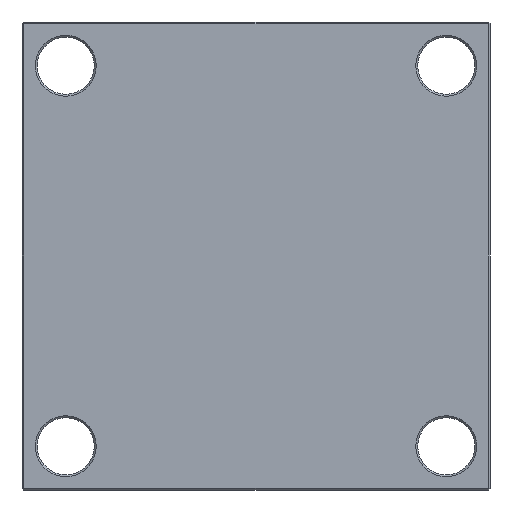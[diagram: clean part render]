
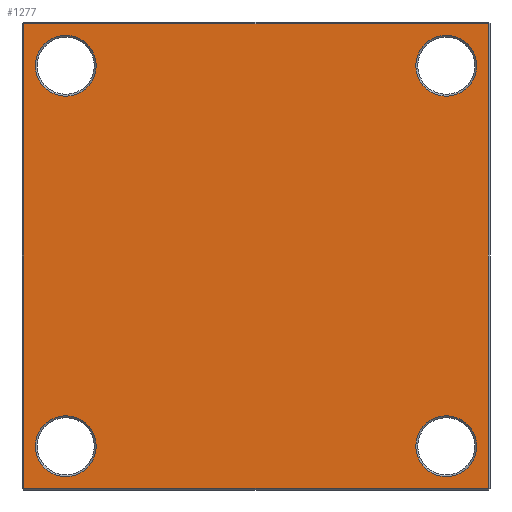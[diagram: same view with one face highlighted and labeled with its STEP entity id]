
A CAD part, front view. The second image highlights one B-rep face of the part: STEP entity #1277.
In plain terms, the highlighted planar face has unit normal (0, -1, 0).
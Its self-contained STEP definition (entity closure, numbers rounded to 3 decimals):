
#9 = EDGE_CURVE ( 'NONE', #828, #495, #794, .T. ) ;
#30 = DIRECTION ( 'NONE',  ( 0., 0., 1. ) ) ;
#80 = CARTESIAN_POINT ( 'NONE',  ( -100., 0., -100. ) ) ;
#107 = ORIENTED_EDGE ( 'NONE', *, *, #1041, .T. ) ;
#113 = ORIENTED_EDGE ( 'NONE', *, *, #1734, .T. ) ;
#147 = ORIENTED_EDGE ( 'NONE', *, *, #9, .T. ) ;
#171 = DIRECTION ( 'NONE',  ( 0., 1., 0. ) ) ;
#180 = DIRECTION ( 'NONE',  ( 0., 0., 1. ) ) ;
#187 = DIRECTION ( 'NONE',  ( 1., 0., 0. ) ) ;
#201 = CARTESIAN_POINT ( 'NONE',  ( 100., 0., -100. ) ) ;
#224 = VERTEX_POINT ( 'NONE', #2092 ) ;
#227 = VERTEX_POINT ( 'NONE', #830 ) ;
#238 = DIRECTION ( 'NONE',  ( -1., 0., 0. ) ) ;
#244 = CIRCLE ( 'NONE', #1267, 16. ) ;
#255 = CARTESIAN_POINT ( 'NONE',  ( 0., 0., 122. ) ) ;
#267 = DIRECTION ( 'NONE',  ( 0., 1., 0. ) ) ;
#276 = ORIENTED_EDGE ( 'NONE', *, *, #2053, .T. ) ;
#278 = CARTESIAN_POINT ( 'NONE',  ( -100., 0., -100. ) ) ;
#291 = DIRECTION ( 'NONE',  ( 0., 1., 0. ) ) ;
#317 = DIRECTION ( 'NONE',  ( 0., 0., 1. ) ) ;
#318 = CARTESIAN_POINT ( 'NONE',  ( 100., 0., 100. ) ) ;
#343 = CARTESIAN_POINT ( 'NONE',  ( 122., 0., 0. ) ) ;
#356 = DIRECTION ( 'NONE',  ( 0., 0., 1. ) ) ;
#402 = CARTESIAN_POINT ( 'NONE',  ( -122., 0., 0. ) ) ;
#412 = VERTEX_POINT ( 'NONE', #1580 ) ;
#413 = DIRECTION ( 'NONE',  ( 0., 0., 1. ) ) ;
#427 = ORIENTED_EDGE ( 'NONE', *, *, #1944, .T. ) ;
#431 = VERTEX_POINT ( 'NONE', #1622 ) ;
#449 = AXIS2_PLACEMENT_3D ( 'NONE', #1143, #1152, #1158 ) ;
#452 = AXIS2_PLACEMENT_3D ( 'NONE', #278, #291, #317 ) ;
#478 = CIRCLE ( 'NONE', #1480, 16. ) ;
#482 = AXIS2_PLACEMENT_3D ( 'NONE', #1062, #1067, #1131 ) ;
#495 = VERTEX_POINT ( 'NONE', #849 ) ;
#537 = VECTOR ( 'NONE', #238, 1000. ) ;
#543 = ORIENTED_EDGE ( 'NONE', *, *, #803, .T. ) ;
#572 = CARTESIAN_POINT ( 'NONE',  ( 0., 0., -122. ) ) ;
#581 = DIRECTION ( 'NONE',  ( 0., 0., -1. ) ) ;
#587 = ORIENTED_EDGE ( 'NONE', *, *, #902, .T. ) ;
#596 = AXIS2_PLACEMENT_3D ( 'NONE', #201, #171, #180 ) ;
#614 = ORIENTED_EDGE ( 'NONE', *, *, #972, .T. ) ;
#638 = LINE ( 'NONE', #572, #1521 ) ;
#639 = ORIENTED_EDGE ( 'NONE', *, *, #1304, .T. ) ;
#729 = CIRCLE ( 'NONE', #452, 16. ) ;
#763 = CARTESIAN_POINT ( 'NONE',  ( 100., 0., 84. ) ) ;
#794 = CIRCLE ( 'NONE', #1514, 16. ) ;
#803 = EDGE_CURVE ( 'NONE', #227, #431, #638, .T. ) ;
#828 = VERTEX_POINT ( 'NONE', #1078 ) ;
#830 = CARTESIAN_POINT ( 'NONE',  ( -122., 0., -122. ) ) ;
#849 = CARTESIAN_POINT ( 'NONE',  ( -100., 0., -116. ) ) ;
#863 = FACE_BOUND ( 'NONE', #1607, .T. ) ;
#873 = EDGE_CURVE ( 'NONE', #1939, #1706, #1929, .T. ) ;
#882 = DIRECTION ( 'NONE',  ( 0., 0., 1. ) ) ;
#889 = DIRECTION ( 'NONE',  ( 0., 1., 0. ) ) ;
#890 = VECTOR ( 'NONE', #882, 1000. ) ;
#902 = EDGE_CURVE ( 'NONE', #1101, #224, #1970, .T. ) ;
#903 = CARTESIAN_POINT ( 'NONE',  ( 100., 0., -100. ) ) ;
#916 = ORIENTED_EDGE ( 'NONE', *, *, #1098, .T. ) ;
#936 = DIRECTION ( 'NONE',  ( 0., 1., 0. ) ) ;
#937 = VECTOR ( 'NONE', #581, 1000. ) ;
#966 = CARTESIAN_POINT ( 'NONE',  ( 0., 0., 0. ) ) ;
#972 = EDGE_CURVE ( 'NONE', #224, #227, #1127, .T. ) ;
#979 = DIRECTION ( 'NONE',  ( 0., 0., 1. ) ) ;
#1041 = EDGE_CURVE ( 'NONE', #1671, #1466, #478, .T. ) ;
#1059 = EDGE_LOOP ( 'NONE', ( #1901, #147 ) ) ;
#1062 = CARTESIAN_POINT ( 'NONE',  ( -100., 0., 100. ) ) ;
#1065 = CARTESIAN_POINT ( 'NONE',  ( 122., 0., 122. ) ) ;
#1067 = DIRECTION ( 'NONE',  ( 0., 1., 0. ) ) ;
#1078 = CARTESIAN_POINT ( 'NONE',  ( -100., 0., -84. ) ) ;
#1098 = EDGE_CURVE ( 'NONE', #431, #1101, #1821, .T. ) ;
#1101 = VERTEX_POINT ( 'NONE', #1065 ) ;
#1127 = LINE ( 'NONE', #402, #937 ) ;
#1131 = DIRECTION ( 'NONE',  ( 0., 0., 1. ) ) ;
#1143 = CARTESIAN_POINT ( 'NONE',  ( 100., 0., 100. ) ) ;
#1152 = DIRECTION ( 'NONE',  ( 0., 1., 0. ) ) ;
#1158 = DIRECTION ( 'NONE',  ( 0., 0., 1. ) ) ;
#1257 = CARTESIAN_POINT ( 'NONE',  ( 100., 0., -84. ) ) ;
#1264 = CARTESIAN_POINT ( 'NONE',  ( 100., 0., -116. ) ) ;
#1267 = AXIS2_PLACEMENT_3D ( 'NONE', #1750, #1728, #1721 ) ;
#1277 = ADVANCED_FACE ( 'NONE', ( #1790, #1373, #863, #2170, #1747 ), #2025, .F. ) ;
#1290 = AXIS2_PLACEMENT_3D ( 'NONE', #966, #2010, #30 ) ;
#1304 = EDGE_CURVE ( 'NONE', #412, #2107, #244, .T. ) ;
#1373 = FACE_BOUND ( 'NONE', #1823, .T. ) ;
#1460 = ORIENTED_EDGE ( 'NONE', *, *, #873, .T. ) ;
#1466 = VERTEX_POINT ( 'NONE', #1264 ) ;
#1480 = AXIS2_PLACEMENT_3D ( 'NONE', #903, #889, #979 ) ;
#1485 = AXIS2_PLACEMENT_3D ( 'NONE', #318, #267, #356 ) ;
#1514 = AXIS2_PLACEMENT_3D ( 'NONE', #80, #936, #413 ) ;
#1521 = VECTOR ( 'NONE', #187, 1000. ) ;
#1580 = CARTESIAN_POINT ( 'NONE',  ( -100., 0., 116. ) ) ;
#1607 = EDGE_LOOP ( 'NONE', ( #276, #1460 ) ) ;
#1622 = CARTESIAN_POINT ( 'NONE',  ( 122., 0., -122. ) ) ;
#1671 = VERTEX_POINT ( 'NONE', #1257 ) ;
#1706 = VERTEX_POINT ( 'NONE', #763 ) ;
#1721 = DIRECTION ( 'NONE',  ( 0., 0., 1. ) ) ;
#1728 = DIRECTION ( 'NONE',  ( 0., 1., 0. ) ) ;
#1734 = EDGE_CURVE ( 'NONE', #1466, #1671, #1984, .T. ) ;
#1747 = FACE_OUTER_BOUND ( 'NONE', #1792, .T. ) ;
#1750 = CARTESIAN_POINT ( 'NONE',  ( -100., 0., 100. ) ) ;
#1790 = FACE_BOUND ( 'NONE', #1059, .T. ) ;
#1792 = EDGE_LOOP ( 'NONE', ( #916, #587, #614, #543 ) ) ;
#1821 = LINE ( 'NONE', #343, #890 ) ;
#1823 = EDGE_LOOP ( 'NONE', ( #113, #107 ) ) ;
#1878 = CARTESIAN_POINT ( 'NONE',  ( -100., 0., 84. ) ) ;
#1901 = ORIENTED_EDGE ( 'NONE', *, *, #2020, .T. ) ;
#1913 = CARTESIAN_POINT ( 'NONE',  ( 100., 0., 116. ) ) ;
#1916 = CIRCLE ( 'NONE', #449, 16. ) ;
#1929 = CIRCLE ( 'NONE', #1485, 16. ) ;
#1939 = VERTEX_POINT ( 'NONE', #1913 ) ;
#1944 = EDGE_CURVE ( 'NONE', #2107, #412, #1982, .T. ) ;
#1970 = LINE ( 'NONE', #255, #537 ) ;
#1982 = CIRCLE ( 'NONE', #482, 16. ) ;
#1984 = CIRCLE ( 'NONE', #596, 16. ) ;
#2010 = DIRECTION ( 'NONE',  ( 0., 1., 0. ) ) ;
#2020 = EDGE_CURVE ( 'NONE', #495, #828, #729, .T. ) ;
#2025 = PLANE ( 'NONE',  #1290 ) ;
#2053 = EDGE_CURVE ( 'NONE', #1706, #1939, #1916, .T. ) ;
#2092 = CARTESIAN_POINT ( 'NONE',  ( -122., 0., 122. ) ) ;
#2107 = VERTEX_POINT ( 'NONE', #1878 ) ;
#2116 = EDGE_LOOP ( 'NONE', ( #427, #639 ) ) ;
#2170 = FACE_BOUND ( 'NONE', #2116, .T. ) ;
